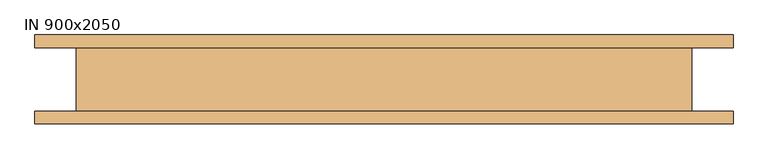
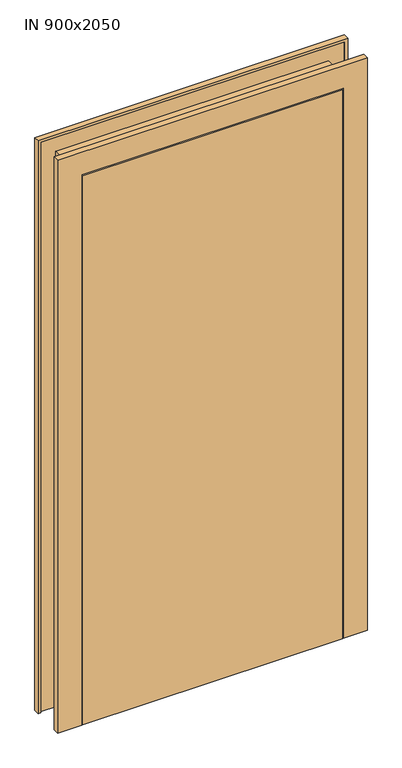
"""IFC4 building model written with IfcOpenShell, lengths in millimetres: door geometry, Dveře : IN 900x2050."""

from ifc_helpers import new_model, si_unit, origin, origin_with_axes, place, context, project, spatial, polyline, outline, extrude, faceted_brep, source, transform, mapped, element, save


def in_900x2050_6898c993(model_context):
    return source(origin(), model_context, "Body", "SolidModel", [
        extrude(outline(polyline([(461.0, -70.0), (-461.0, -70.0), (-461.0, -30.0), (461.0, -30.0), (461.0, -70.0)])), origin_with_axes(), (0.0, 0.0, 1.0), 2061.0),
        faceted_brep([(-450.0, 70.0, 0.0), (-450.0, -30.0, 0.0), (-465.0, -30.0, 0.0), (-465.0, -70.0, 0.0), (-550.0, -70.0, 0.0), (-550.0, -50.0, 0.0), (-540.0, -50.0, 0.0), (-540.0, -55.0, 0.0), (-485.0, -55.0, 0.0), (-485.0, 55.0, 0.0), (-540.0, 55.0, 0.0), (-540.0, 50.0, 0.0), (-550.0, 50.0, 0.0), (-550.0, 70.0, 0.0), (-550.0, 70.0, 2150.0), (550.0, 70.0, 2150.0), (550.0, 70.0, 0.0), (450.0, 70.0, 0.0), (450.0, 70.0, 2050.0), (-450.0, 70.0, 2050.0), (-550.0, 50.0, 2150.0), (-540.0, 50.0, 2140.0), (540.0, 50.0, 2140.0), (540.0, 50.0, 0.0), (550.0, 50.0, 0.0), (550.0, 50.0, 2150.0), (-540.0, 55.0, 2140.0), (-485.0, 55.0, 2085.0), (485.0, 55.0, 2085.0), (485.0, 55.0, 0.0), (540.0, 55.0, 0.0), (540.0, 55.0, 2140.0), (-485.0, -55.0, 2085.0), (-540.0, -55.0, 2140.0), (540.0, -55.0, 2140.0), (540.0, -55.0, 0.0), (485.0, -55.0, 0.0), (485.0, -55.0, 2085.0), (-540.0, -50.0, 2140.0), (-550.0, -50.0, 2150.0), (550.0, -50.0, 2150.0), (550.0, -50.0, 0.0), (540.0, -50.0, 0.0), (540.0, -50.0, 2140.0), (-550.0, -70.0, 2150.0), (-465.0, -70.0, 2065.0), (465.0, -70.0, 2065.0), (465.0, -70.0, 0.0), (550.0, -70.0, 0.0), (550.0, -70.0, 2150.0), (-465.0, -30.0, 2065.0), (-450.0, -30.0, 2050.0), (450.0, -30.0, 2050.0), (450.0, -30.0, 0.0), (465.0, -30.0, 0.0), (465.0, -30.0, 2065.0)], [[[0, 1, 2, 3, 4, 5, 6, 7, 8, 9, 10, 11, 12, 13]], [[13, 14, 15, 16, 17, 18, 19, 0]], [[12, 20, 14, 13]], [[11, 21, 22, 23, 24, 25, 20, 12]], [[10, 26, 21, 11]], [[9, 27, 28, 29, 30, 31, 26, 10]], [[8, 32, 27, 9]], [[7, 33, 34, 35, 36, 37, 32, 8]], [[6, 38, 33, 7]], [[5, 39, 40, 41, 42, 43, 38, 6]], [[4, 44, 39, 5]], [[3, 45, 46, 47, 48, 49, 44, 4]], [[2, 50, 45, 3]], [[1, 51, 52, 53, 54, 55, 50, 2]], [[0, 19, 51, 1]], [[17, 16, 24, 23, 30, 29, 36, 35, 42, 41, 48, 47, 54, 53]], [[18, 17, 53, 52]], [[55, 54, 47, 46]], [[49, 48, 41, 40]], [[43, 42, 35, 34]], [[37, 36, 29, 28]], [[31, 30, 23, 22]], [[25, 24, 16, 15]], [[32, 37, 28, 27]], [[19, 18, 52, 51]], [[50, 55, 46, 45]], [[44, 49, 40, 39]], [[20, 25, 15, 14]], [[38, 43, 34, 33]], [[26, 31, 22, 21]]]),
    ])


if __name__ == "__main__":
    model = new_model("IFC4")
    model_context = context("Model", 3, world=origin())
    ifc_project = project(units=[si_unit("LENGTHUNIT", "METRE", prefix="MILLI")], contexts=[model_context])
    site = spatial("IfcSite", under=ifc_project)
    building = spatial("IfcBuilding", under=site)
    placement = place(None, origin())
    in_900x2050_shape = in_900x2050_6898c993(model_context)
    element("IfcDoor", 1, ObjectType="Dveře : IN 900x2050", at=placement, inside=building, context=model_context, shape_type="MappedRepresentation", body=[
        mapped(in_900x2050_shape, transform((0.0, 0.0, 0.0), x_axis=(1.0, 0.0, 0.0), y_axis=(0.0, 1.0, 0.0), z_axis=(0.0, 0.0, 1.0))),
    ])
    save(model, "model.ifc")
